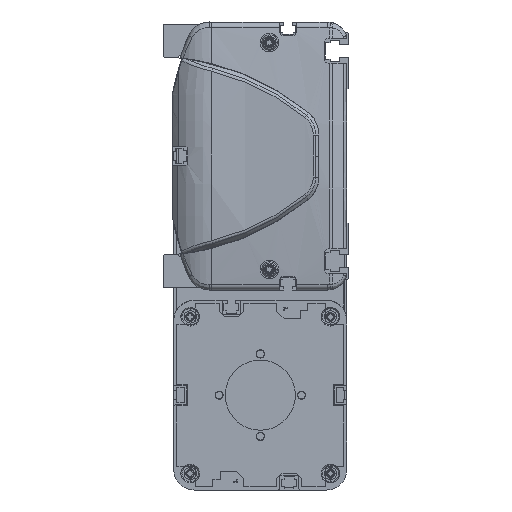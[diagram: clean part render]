
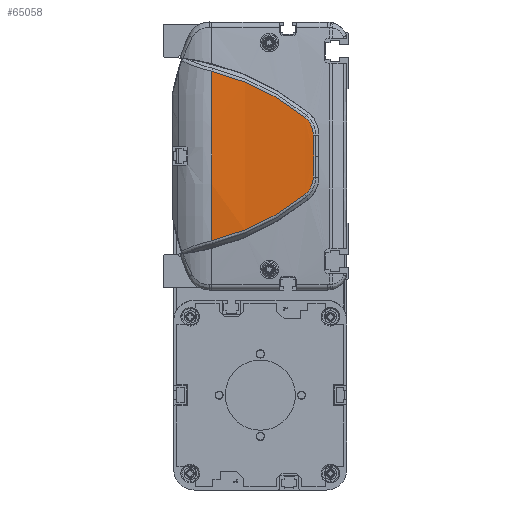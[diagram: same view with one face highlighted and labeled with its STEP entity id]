
A CAD part, left-side view. The second image highlights one B-rep face of the part: STEP entity #65058.
In plain terms, the highlighted cylindrical face has radius 500 mm (diameter 1000 mm), a partial arc.
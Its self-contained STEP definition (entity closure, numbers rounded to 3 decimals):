
#61310=CARTESIAN_POINT('',(-714.,66.962,0.));
#61311=DIRECTION('',(0.,-1.,0.));
#61312=DIRECTION('',(-0.997,0.,0.082));
#61313=AXIS2_PLACEMENT_3D('',#61310,#61311,#61312);
#62193=CARTESIAN_POINT('',(-1213.648,21.913,
-18.759));
#62194=CARTESIAN_POINT('',(-1213.449,28.504,
-24.058));
#62195=CARTESIAN_POINT('',(-1212.934,42.795,
-33.27));
#62196=CARTESIAN_POINT('',(-1212.471,58.756,
-39.127));
#62197=CARTESIAN_POINT('',(-1212.306,66.962,
-41.121));
#62199=CARTESIAN_POINT('',(-1212.306,66.962,
41.121));
#62200=CARTESIAN_POINT('',(-1212.471,58.756,
39.127));
#62201=CARTESIAN_POINT('',(-1212.934,42.795,
33.27));
#62202=CARTESIAN_POINT('',(-1213.449,28.504,
24.058));
#62203=CARTESIAN_POINT('',(-1213.648,21.913,
18.759));
#62205=CARTESIAN_POINT('',(-1213.648,21.913,
18.759));
#62206=CARTESIAN_POINT('',(-1213.686,20.635,
17.736));
#62207=CARTESIAN_POINT('',(-1213.779,18.536,
15.107));
#62208=CARTESIAN_POINT('',(-1213.863,17.752,
11.827));
#62209=CARTESIAN_POINT('',(-1213.896,17.724,
10.178));
#62211=CARTESIAN_POINT('',(-1213.896,17.724,
10.178));
#62212=CARTESIAN_POINT('',(-1213.92,17.707,
9.026));
#62213=CARTESIAN_POINT('',(-1213.959,17.667,
6.735));
#62214=CARTESIAN_POINT('',(-1213.993,17.58,
3.341));
#62215=CARTESIAN_POINT('',(-1214.,17.498,
1.108));
#62216=CARTESIAN_POINT('',(-1214.,17.449,
0.));
#62218=CARTESIAN_POINT('',(-1214.,17.449,
0.));
#62219=CARTESIAN_POINT('',(-1214.,17.498,
-1.108));
#62220=CARTESIAN_POINT('',(-1213.993,17.58,
-3.341));
#62221=CARTESIAN_POINT('',(-1213.959,17.667,
-6.734));
#62222=CARTESIAN_POINT('',(-1213.92,17.707,
-9.028));
#62223=CARTESIAN_POINT('',(-1213.896,17.724,
-10.18));
#62225=CARTESIAN_POINT('',(-1213.896,17.724,
-10.18));
#62226=CARTESIAN_POINT('',(-1213.863,17.752,
-11.828));
#62227=CARTESIAN_POINT('',(-1213.779,18.537,
-15.109));
#62228=CARTESIAN_POINT('',(-1213.686,20.635,
-17.736));
#62229=CARTESIAN_POINT('',(-1213.648,21.913,
-18.759));
#62880=VERTEX_POINT('',#62193);
#62881=VERTEX_POINT('',#62197);
#62882=CARTESIAN_POINT('',(-1212.306,66.962,
41.121));
#62883=VERTEX_POINT('',#62882);
#62884=VERTEX_POINT('',#62203);
#62885=VERTEX_POINT('',#62209);
#62886=VERTEX_POINT('',#62216);
#62887=VERTEX_POINT('',#62223);
#65039=CARTESIAN_POINT('',(-714.,8.606,0.));
#65040=DIRECTION('',(0.,1.,0.));
#65041=DIRECTION('',(1.,0.,0.));
#65042=AXIS2_PLACEMENT_3D('',#65039,#65040,#65041);
#65043=CYLINDRICAL_SURFACE('',#65042,500.);
#65045=ORIENTED_EDGE('',*,*,#65044,.T.);
#65046=ORIENTED_EDGE('',*,*,#63682,.F.);
#65048=ORIENTED_EDGE('',*,*,#65047,.T.);
#65050=ORIENTED_EDGE('',*,*,#65049,.T.);
#65052=ORIENTED_EDGE('',*,*,#65051,.T.);
#65054=ORIENTED_EDGE('',*,*,#65053,.T.);
#65055=ORIENTED_EDGE('',*,*,#65029,.T.);
#65056=EDGE_LOOP('',(#65045,#65046,#65048,#65050,#65052,#65054,#65055));
#65057=FACE_OUTER_BOUND('',#65056,.F.);
#65058=ADVANCED_FACE('',(#65057),#65043,.T.);
#61314=CIRCLE('',#61313,500.);
#62198=B_SPLINE_CURVE_WITH_KNOTS('',3,(#62193,#62194,#62195,#62196,#62197),
.UNSPECIFIED.,.F.,.F.,(4,1,4),(0.,0.5,1.),.UNSPECIFIED.);
#62204=B_SPLINE_CURVE_WITH_KNOTS('',3,(#62199,#62200,#62201,#62202,#62203),
.UNSPECIFIED.,.F.,.F.,(4,1,4),(0.,0.5,1.),.UNSPECIFIED.);
#62210=B_SPLINE_CURVE_WITH_KNOTS('',3,(#62205,#62206,#62207,#62208,#62209),
.UNSPECIFIED.,.F.,.F.,(4,1,4),(0.,0.5,1.),.UNSPECIFIED.);
#62217=B_SPLINE_CURVE_WITH_KNOTS('',3,(#62211,#62212,#62213,#62214,#62215,
#62216),.UNSPECIFIED.,.F.,.F.,(4,1,1,4),(0.,0.333,
0.667,1.),.UNSPECIFIED.);
#62224=B_SPLINE_CURVE_WITH_KNOTS('',3,(#62218,#62219,#62220,#62221,#62222,
#62223),.UNSPECIFIED.,.F.,.F.,(4,1,1,4),(0.,0.333,
0.667,1.),.UNSPECIFIED.);
#62230=B_SPLINE_CURVE_WITH_KNOTS('',3,(#62225,#62226,#62227,#62228,#62229),
.UNSPECIFIED.,.F.,.F.,(4,1,4),(0.,0.5,1.),.UNSPECIFIED.);
#63682=EDGE_CURVE('',#62883,#62881,#61314,.T.);
#65029=EDGE_CURVE('',#62887,#62880,#62230,.T.);
#65044=EDGE_CURVE('',#62880,#62881,#62198,.T.);
#65047=EDGE_CURVE('',#62883,#62884,#62204,.T.);
#65049=EDGE_CURVE('',#62884,#62885,#62210,.T.);
#65051=EDGE_CURVE('',#62885,#62886,#62217,.T.);
#65053=EDGE_CURVE('',#62886,#62887,#62224,.T.);
